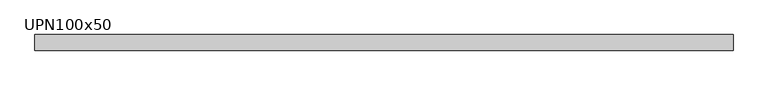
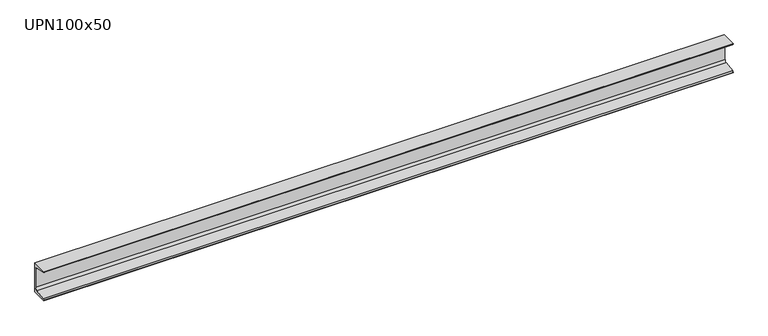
"""IFC4 building model written with IfcOpenShell, lengths in millimetres: beam geometry, M_MC Shapes : UPN100x50."""

from ifc_helpers import new_model, si_unit, point, frame, frame_2d, origin, place, context, project, spatial, polyline, circle_curve, trimmed, segment, composite_curve, outline, extrude, source, transform, mapped, element, save


def upn100x50_6a18d03b(model_context):
    return source(origin(), model_context, "Body", "SweptSolid", [
        extrude(outline(composite_curve([segment(polyline([(10.9, 50.0), (10.9, -50.0), (-39.1, -50.0), (-39.1, -49.0253247)]), True, "CONTINUOUS"), segment(trimmed(circle_curve(frame_2d((-35.15, -49.0253247)), 3.95), [point((-39.1, -49.0253247))], [point((-35.7993773, -45.1290689))], False, "CARTESIAN"), True, "CONTINUOUS"), segment(polyline([(-35.7993773, -45.1290689), (-0.2512455, -39.2043685)]), True, "CONTINUOUS"), segment(trimmed(circle_curve(frame_2d((-1.55, -31.4118569)), 7.9), [point((-0.2512455, -39.2043685))], [point((6.35, -31.4118569))], True, "CARTESIAN"), True, "CONTINUOUS"), segment(polyline([(6.35, -31.4118569), (6.35, 31.4118569)]), True, "CONTINUOUS"), segment(trimmed(circle_curve(frame_2d((-1.55, 31.4118569)), 7.9), [point((6.35, 31.4118569))], [point((-0.2512455, 39.2043685))], True, "CARTESIAN"), True, "CONTINUOUS"), segment(polyline([(-0.2512455, 39.2043685), (-35.7993773, 45.1290689)]), True, "CONTINUOUS"), segment(trimmed(circle_curve(frame_2d((-35.15, 49.0253247)), 3.95), [point((-35.7993773, 45.1290689))], [point((-39.1, 49.0253247))], False, "CARTESIAN"), True, "CONTINUOUS"), segment(polyline([(-39.1, 49.0253247), (-39.1, 50.0), (10.9, 50.0)]), True, "CONTINUOUS")], self_intersect=False)), frame((-1145.85, 0.0, 0.0), z_axis=(1.0, 0.0, 0.0), x_axis=(0.0, 1.0, 0.0)), (0.0, 0.0, 1.0), 2231.3),
    ])


if __name__ == "__main__":
    model = new_model("IFC4")
    model_context = context("Model", 3, world=origin())
    ifc_project = project(units=[si_unit("LENGTHUNIT", "METRE", prefix="MILLI")], contexts=[model_context])
    site = spatial("IfcSite", under=ifc_project)
    building = spatial("IfcBuilding", under=site)
    placement = place(None, origin())
    upn100x50_shape = upn100x50_6a18d03b(model_context)
    element("IfcBeam", 1, ObjectType="M_MC Shapes : UPN100x50", at=placement, inside=building, context=model_context, shape_type="MappedRepresentation", body=[
        mapped(upn100x50_shape, transform((0.0, 0.0, 0.0), x_axis=(1.0, 0.0, 0.0), y_axis=(0.0, 1.0, 0.0), z_axis=(0.0, 0.0, 1.0))),
    ])
    save(model, "model.ifc")
